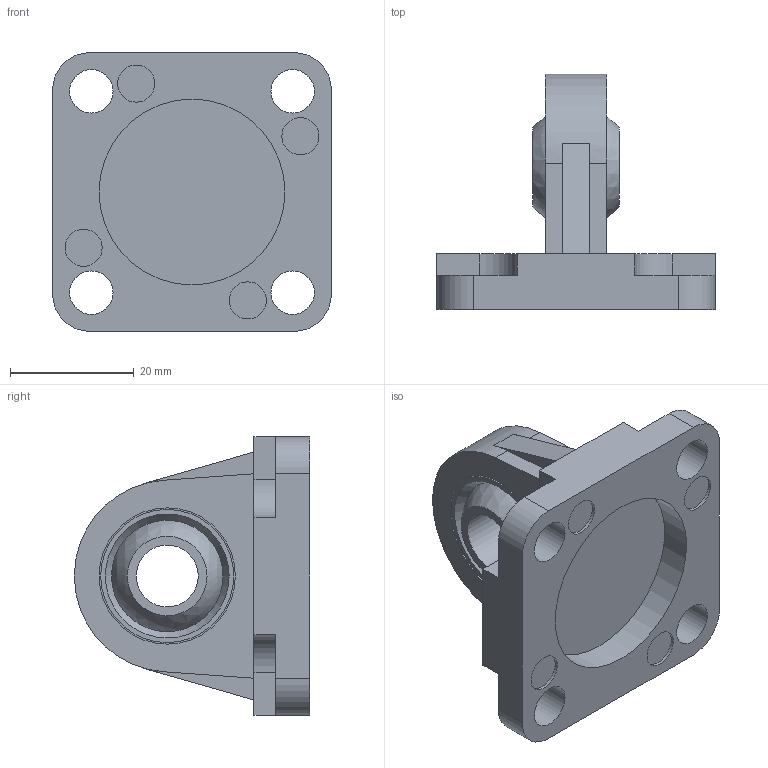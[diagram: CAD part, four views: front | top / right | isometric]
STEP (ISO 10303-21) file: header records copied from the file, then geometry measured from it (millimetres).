
FILE_DESCRIPTION( ( 'STEP AP214' ), '1' );
FILE_NAME( 'C:/Users/Administrator/Desktop/FJ-VBC32CS.stp', '2024-12-17T01:14:46', ( 'License CC BY-ND 4.0' ), ( 'CADENAS' ), ' ', 'PARTsolutions', ' ' );
FILE_SCHEMA( ( 'AUTOMOTIVE_DESIGN { 1 0 10303 214 1 1 1 1 }' ) );
Length unit declared in the file: millimetre
Products named in the file (1): _FJ-VBC32CS
Bounding box: 45 x 38 x 45 mm (x, y, z)
Volume: 19082 mm3; surface area: 9262.5 mm2
Topology: 1 solids, 1 shells, 70 faces, 164 edges, 110 vertices
Faces by surface type: plane 41, cylinder 25, sphere 2, cone 2
Full cylindrical faces by diameter (mm): 6 x4, 7 x4, 10 x1, 18 x2, 21.5 x2, 22 x2, 30 x1
Entity records: 2510 total; most frequent: DIRECTION 344, CARTESIAN_POINT 323, ORIENTED_EDGE 288, EDGE_CURVE 144, AXIS2_PLACEMENT_3D 129, EDGE_LOOP 112, VERTEX_POINT 108, FACE_OUTER_BOUND 86
